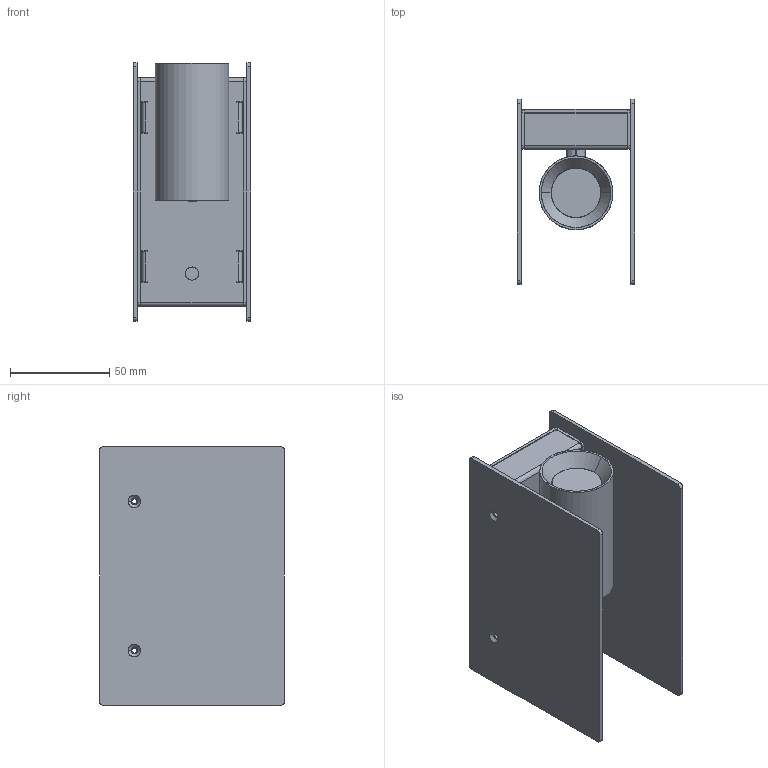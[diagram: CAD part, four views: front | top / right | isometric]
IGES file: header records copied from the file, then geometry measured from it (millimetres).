
Start section: SolidWorks IGES file using analytic representation for surfaces
Global section: file name: L:\Tecnico_PMT\R&D\PROGETTI ROADMAP 2022\PLINT BATTERIA\12-05-2022\mini plint per sito.IGS; native system: SolidWorks 2016; preprocessor: SolidWorks 2016; author: MariaMancini; date: 220603.135109; units: millimetre
Bounding box: 59 x 93 x 130 mm (x, y, z)
Surface area: 126424.7 mm2 (no closed solid volume)
Topology: 0 solids, 0 shells, 588 faces, 8216 edges, 8216 vertices
Faces by surface type: revolution 317, bspline 271
